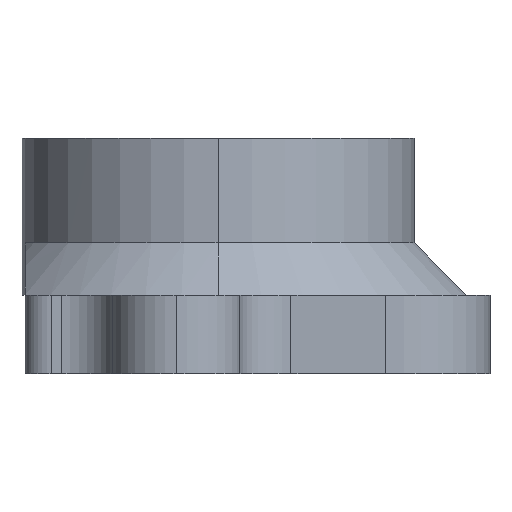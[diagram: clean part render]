
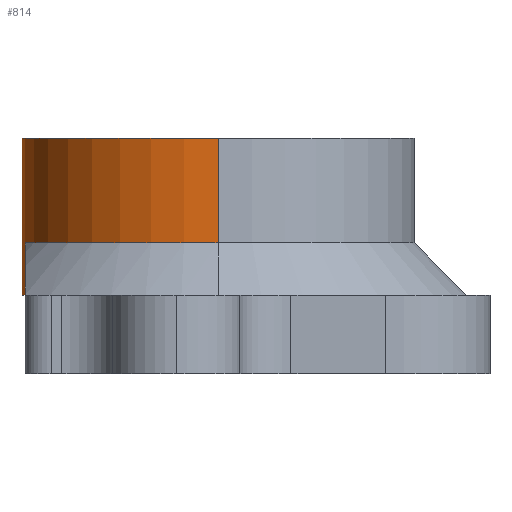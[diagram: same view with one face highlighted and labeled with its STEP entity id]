
A CAD part, left-side view. The second image highlights one B-rep face of the part: STEP entity #814.
In plain terms, the highlighted cylindrical face has radius 7.5 mm (diameter 15 mm), a partial arc.
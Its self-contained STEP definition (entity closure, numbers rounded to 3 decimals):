
#17 = ORIENTED_EDGE ( 'NONE', *, *, #508, .T. ) ;
#27 = ORIENTED_EDGE ( 'NONE', *, *, #840, .F. ) ;
#44 = VECTOR ( 'NONE', #468, 1000. ) ;
#74 = ORIENTED_EDGE ( 'NONE', *, *, #340, .T. ) ;
#83 = DIRECTION ( 'NONE',  ( 1., 0., 0. ) ) ;
#89 = DIRECTION ( 'NONE',  ( 0., 0., 1. ) ) ;
#91 = ORIENTED_EDGE ( 'NONE', *, *, #876, .T. ) ;
#111 = DIRECTION ( 'NONE',  ( 1., 0., 0. ) ) ;
#115 = DIRECTION ( 'NONE',  ( 0., 0., 1. ) ) ;
#125 = CARTESIAN_POINT ( 'NONE',  ( 1.169, -55.147, 5. ) ) ;
#148 = CYLINDRICAL_SURFACE ( 'NONE', #254, 7.5 ) ;
#159 = LINE ( 'NONE', #234, #1080 ) ;
#164 = CARTESIAN_POINT ( 'NONE',  ( -1.469, -55.147, 5. ) ) ;
#168 = EDGE_CURVE ( 'NONE', #730, #898, #1097, .T. ) ;
#207 = EDGE_CURVE ( 'NONE', #1087, #982, #681, .T. ) ;
#234 = CARTESIAN_POINT ( 'NONE',  ( -7.65, -62.53, 9. ) ) ;
#254 = AXIS2_PLACEMENT_3D ( 'NONE', #679, #492, #851 ) ;
#329 = EDGE_CURVE ( 'NONE', #1087, #699, #951, .T. ) ;
#340 = EDGE_CURVE ( 'NONE', #982, #726, #893, .T. ) ;
#356 = CARTESIAN_POINT ( 'NONE',  ( -1.469, -55.147, 3. ) ) ;
#361 = DIRECTION ( 'NONE',  ( 0., 0., 1. ) ) ;
#413 = CARTESIAN_POINT ( 'NONE',  ( 7.35, -62.53, 9. ) ) ;
#423 = FACE_OUTER_BOUND ( 'NONE', #502, .T. ) ;
#442 = CARTESIAN_POINT ( 'NONE',  ( 7.35, -62.53, 5. ) ) ;
#468 = DIRECTION ( 'NONE',  ( 0., 0., -1. ) ) ;
#491 = VERTEX_POINT ( 'NONE', #547 ) ;
#492 = DIRECTION ( 'NONE',  ( 0., 0., -1. ) ) ;
#502 = EDGE_LOOP ( 'NONE', ( #949, #1106, #74, #17, #91, #948, #963, #27 ) ) ;
#508 = EDGE_CURVE ( 'NONE', #726, #491, #917, .T. ) ;
#516 = AXIS2_PLACEMENT_3D ( 'NONE', #1124, #959, #703 ) ;
#547 = CARTESIAN_POINT ( 'NONE',  ( 1.169, -55.147, 3. ) ) ;
#608 = EDGE_CURVE ( 'NONE', #891, #730, #1083, .T. ) ;
#618 = DIRECTION ( 'NONE',  ( 1., 0., 0. ) ) ;
#620 = CARTESIAN_POINT ( 'NONE',  ( -7.65, -62.53, 5. ) ) ;
#622 = CARTESIAN_POINT ( 'NONE',  ( -0.15, -62.53, 9. ) ) ;
#634 = AXIS2_PLACEMENT_3D ( 'NONE', #789, #89, #83 ) ;
#650 = VECTOR ( 'NONE', #1052, 1000. ) ;
#651 = CARTESIAN_POINT ( 'NONE',  ( -1.469, -55.147, 3. ) ) ;
#679 = CARTESIAN_POINT ( 'NONE',  ( -0.15, -62.53, 9. ) ) ;
#681 = LINE ( 'NONE', #413, #650 ) ;
#699 = VERTEX_POINT ( 'NONE', #830 ) ;
#703 = DIRECTION ( 'NONE',  ( 1., 0., 0. ) ) ;
#710 = VECTOR ( 'NONE', #115, 1000. ) ;
#726 = VERTEX_POINT ( 'NONE', #837 ) ;
#729 = CARTESIAN_POINT ( 'NONE',  ( -0.15, -62.53, 5. ) ) ;
#730 = VERTEX_POINT ( 'NONE', #164 ) ;
#770 = AXIS2_PLACEMENT_3D ( 'NONE', #622, #361, #618 ) ;
#789 = CARTESIAN_POINT ( 'NONE',  ( -0.15, -62.53, 3. ) ) ;
#814 = ADVANCED_FACE ( 'NONE', ( #423 ), #148, .T. ) ;
#830 = CARTESIAN_POINT ( 'NONE',  ( -7.65, -62.53, 9. ) ) ;
#837 = CARTESIAN_POINT ( 'NONE',  ( 1.169, -55.147, 5. ) ) ;
#840 = EDGE_CURVE ( 'NONE', #699, #898, #159, .T. ) ;
#851 = DIRECTION ( 'NONE',  ( -1., 0., 0. ) ) ;
#876 = EDGE_CURVE ( 'NONE', #491, #891, #894, .T. ) ;
#879 = AXIS2_PLACEMENT_3D ( 'NONE', #729, #981, #111 ) ;
#891 = VERTEX_POINT ( 'NONE', #356 ) ;
#893 = CIRCLE ( 'NONE', #879, 7.5 ) ;
#894 = CIRCLE ( 'NONE', #634, 7.5 ) ;
#898 = VERTEX_POINT ( 'NONE', #620 ) ;
#917 = LINE ( 'NONE', #125, #44 ) ;
#948 = ORIENTED_EDGE ( 'NONE', *, *, #608, .T. ) ;
#949 = ORIENTED_EDGE ( 'NONE', *, *, #329, .F. ) ;
#951 = CIRCLE ( 'NONE', #770, 7.5 ) ;
#959 = DIRECTION ( 'NONE',  ( 0., 0., 1. ) ) ;
#963 = ORIENTED_EDGE ( 'NONE', *, *, #168, .T. ) ;
#981 = DIRECTION ( 'NONE',  ( 0., 0., 1. ) ) ;
#982 = VERTEX_POINT ( 'NONE', #442 ) ;
#1052 = DIRECTION ( 'NONE',  ( 0., 0., -1. ) ) ;
#1080 = VECTOR ( 'NONE', #1128, 1000. ) ;
#1083 = LINE ( 'NONE', #651, #710 ) ;
#1087 = VERTEX_POINT ( 'NONE', #1099 ) ;
#1097 = CIRCLE ( 'NONE', #516, 7.5 ) ;
#1099 = CARTESIAN_POINT ( 'NONE',  ( 7.35, -62.53, 9. ) ) ;
#1106 = ORIENTED_EDGE ( 'NONE', *, *, #207, .T. ) ;
#1124 = CARTESIAN_POINT ( 'NONE',  ( -0.15, -62.53, 5. ) ) ;
#1128 = DIRECTION ( 'NONE',  ( 0., 0., -1. ) ) ;
